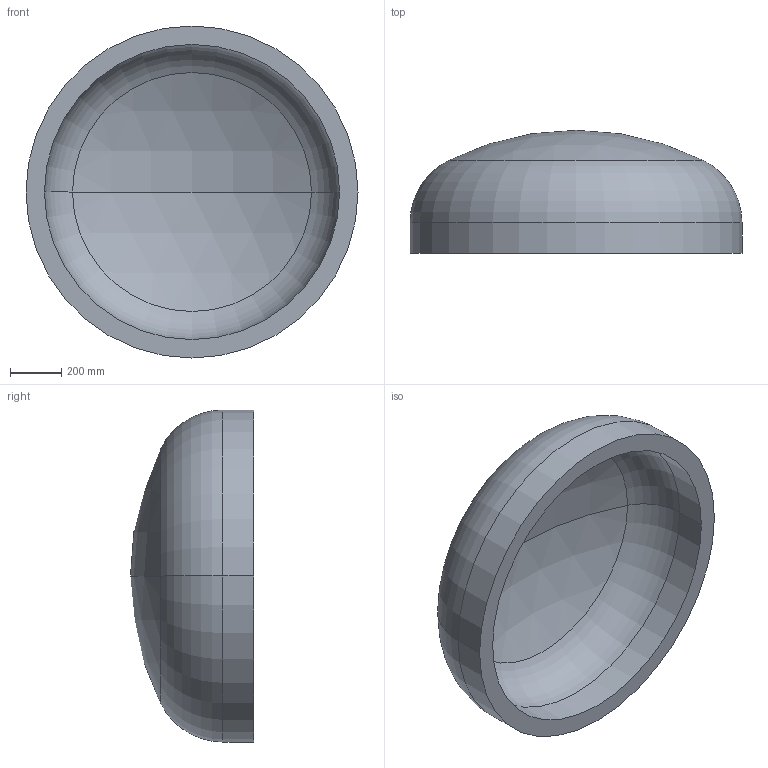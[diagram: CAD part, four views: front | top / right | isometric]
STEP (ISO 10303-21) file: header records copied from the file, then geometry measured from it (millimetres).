
FILE_DESCRIPTION (( 'STEP AP203' ), '1' );
FILE_NAME ('DIN 28013 Korbbogenform_-_Boden DIN 28013 - 1300 x 120 - I - s=72.step', '2016-07-01T09:57:52', ( '' ), ( '' ), 'SwSTEP 2.0', 'SolidWorks 2013', '' );
FILE_SCHEMA (( 'CONFIG_CONTROL_DESIGN' ));
Length unit declared in the file: millimetre
Products named in the file (1): DIN 28013 Korbbogenform_-_Boden DIN 28013 - 1300 x 120 - I - s=72
Bounding box: 1300 x 481.86 x 1300 mm (x, y, z)
Volume: 156611486.1 mm3; surface area: 4638942.5 mm2
Topology: 1 solids, 1 shells, 13 faces, 24 edges, 14 vertices
Faces by surface type: torus 4, cylinder 4, sphere 4, plane 1
Entity records: 407 total; most frequent: DIRECTION 72, CARTESIAN_POINT 52, ORIENTED_EDGE 48, AXIS2_PLACEMENT_3D 34, EDGE_CURVE 24, CIRCLE 20, VERTEX_POINT 14, EDGE_LOOP 14
